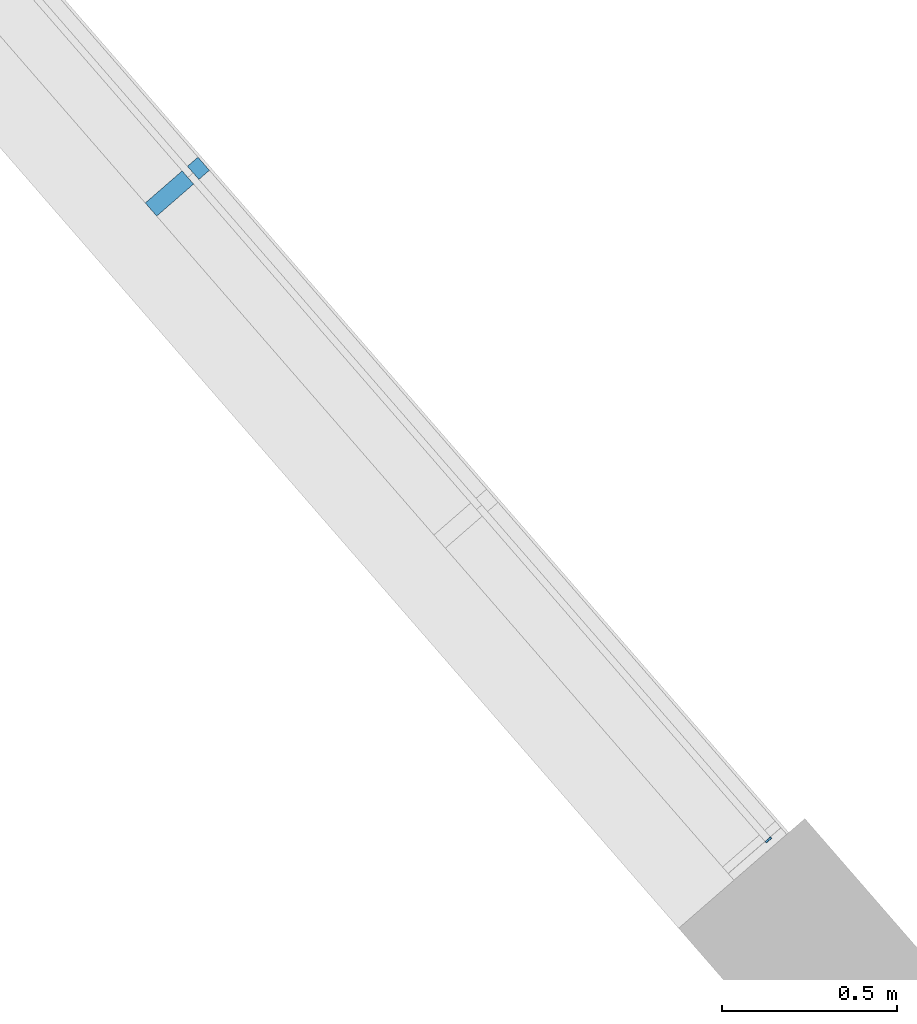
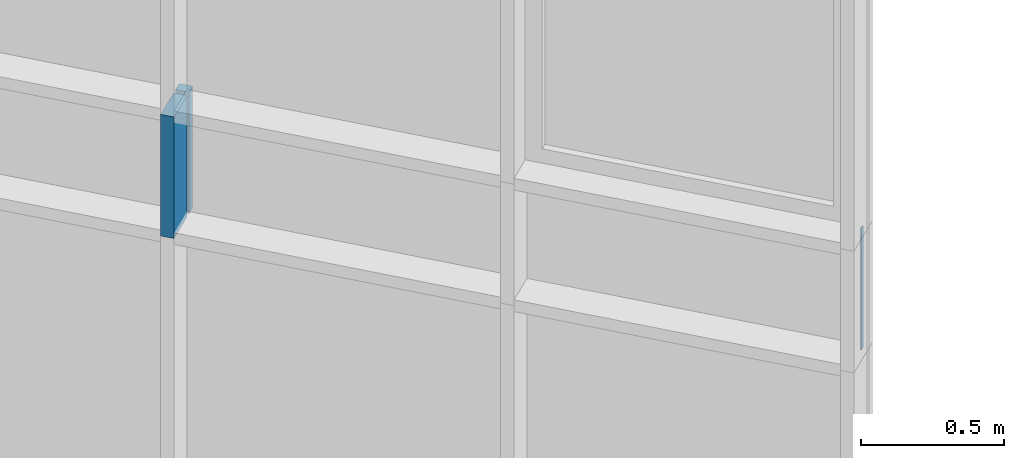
# One storey, part 69 of 390: 2 discrete accessories, 1 element without a shape of its own.
"""IFC2X3 building model written with IfcOpenShell, lengths in millimetres."""

import ifcopenshell
import ifcopenshell.guid

model = None  # the IFC model being written
_history = None  # IfcOwnerHistory: only IFC2X3 demands one
_inside = {}  # id of a spatial element -> (the spatial element, [elements in it])
_under = {}  # id of a project, library or spatial element -> (it, [spatial elements below it])
_declared = {}  # id of a project -> (the project, [libraries it declares])
_typed = {}  # id of a type object -> (the type object, [elements of that type])
_made_of = {}  # id of a material, layer set ... -> (it, [elements and type objects made of it])


def new_model(schema):
    """Start an empty IFC model of exactly this schema.

    Asked for "IFC4X3", IfcOpenShell would pick the latest addendum, in which some entities
    have other attributes; the version numbers below select the first issue.
    IFC2X3 requires an IfcOwnerHistory on every rooted entity: one is made here for all.
    """
    global model, _history
    if schema == "IFC4X3":
        model = ifcopenshell.file(schema_version=(4, 3, 0, 0))
    else:
        model = ifcopenshell.file(schema=schema)
    _inside.clear()
    _under.clear()
    _declared.clear()
    _typed.clear()
    _made_of.clear()
    _history = None
    if model.schema == "IFC2X3":
        org = make("IfcOrganization", Name="unknown")
        user = make(
            "IfcPersonAndOrganization",
            ThePerson=make("IfcPerson", FamilyName="unknown"),
            TheOrganization=org,
        )
        app = make(
            "IfcApplication",
            ApplicationDeveloper=org,
            Version="unknown",
            ApplicationFullName="unknown",
            ApplicationIdentifier="unknown",
        )
        _history = make(
            "IfcOwnerHistory",
            OwningUser=user,
            OwningApplication=app,
            ChangeAction="ADDED",
            CreationDate=0,
        )
    return model


def make(cls, **values):
    """One entity of the class cls with the attributes given. An attribute that is None is left unset."""
    return model.create_entity(
        cls, **{name: value for name, value in values.items() if value is not None}
    )


def entity(cls, *values):
    """Any entity or typed value of the class cls, its attributes in the order of the schema. None: left unset."""
    e = model.create_entity(cls)
    for i, value in enumerate(values):
        if value is not None:
            e[i] = value
    return e


def rooted(cls, **values):
    """An entity with a GlobalId (a new one), such as an element, a storey or a relation."""
    return make(cls, GlobalId=ifcopenshell.guid.new(), OwnerHistory=_history, **values)


def si_unit(unit_type, name, prefix=None):
    """IfcSIUnit, for example si_unit("LENGTHUNIT", "METRE", prefix="MILLI")."""
    return make("IfcSIUnit", UnitType=unit_type, Prefix=prefix, Name=name)


def converted_unit(unit_type, name, factor, base, dimensions=None, offset=None):
    """IfcConversionBasedUnit, such as the inch: factor (a typed value) times the base unit."""
    return make(
        "IfcConversionBasedUnit"
        if offset is None
        else "IfcConversionBasedUnitWithOffset",
        ConversionOffset=offset,
        Dimensions=None
        if dimensions is None
        else entity("IfcDimensionalExponents", *dimensions),
        UnitType=unit_type,
        Name=name,
        ConversionFactor=make(
            "IfcMeasureWithUnit", ValueComponent=factor, UnitComponent=base
        ),
    )


def derived_unit(unit_type, elements):
    """IfcDerivedUnit: a product of units, each with its exponent."""
    return make(
        "IfcDerivedUnit",
        Elements=[
            make("IfcDerivedUnitElement", Unit=unit, Exponent=power)
            for unit, power in elements
        ],
        UnitType=unit_type,
    )


def money_unit(currency):
    """IfcMonetaryUnit."""
    return make("IfcMonetaryUnit", Currency=currency)


def assignment(units):
    """IfcUnitAssignment: the units of a project."""
    return None if units is None else make("IfcUnitAssignment", Units=units)


def point(xyz):
    """IfcCartesianPoint."""
    return None if xyz is None else make("IfcCartesianPoint", Coordinates=xyz)


def direction(xyz):
    """IfcDirection."""
    return None if xyz is None else make("IfcDirection", DirectionRatios=xyz)


def frame(location, z_axis=None, x_axis=None):
    """IfcAxis2Placement3D, a coordinate frame: its origin and axes. An axis left out is left unset."""
    return make(
        "IfcAxis2Placement3D",
        Location=point(location),
        Axis=direction(z_axis),
        RefDirection=direction(x_axis),
    )


def origin_with_axes():
    """The frame at (0, 0, 0) with the z axis (0, 0, 1) and the x axis (1, 0, 0) written out."""
    return frame((0.0, 0.0, 0.0), z_axis=(0.0, 0.0, 1.0), x_axis=(1.0, 0.0, 0.0))


def place(relative_to, where):
    """IfcLocalPlacement: puts the frame where relative to a parent placement (None: the world)."""
    return make(
        "IfcLocalPlacement", PlacementRelTo=relative_to, RelativePlacement=where
    )


def context(
    kind, dimensions, precision=None, world=None, true_north=None, identifier=None
):
    """IfcGeometricRepresentationContext, for example the 3D "Model" context."""
    return make(
        "IfcGeometricRepresentationContext",
        ContextIdentifier=identifier,
        ContextType=kind,
        CoordinateSpaceDimension=dimensions,
        Precision=precision,
        WorldCoordinateSystem=world,
        TrueNorth=true_north,
    )


def subcontext(parent, identifier, kind, view, scale=None):
    """IfcGeometricRepresentationSubContext, for example "Body" below "Model"."""
    return make(
        "IfcGeometricRepresentationSubContext",
        ContextIdentifier=identifier,
        ContextType=kind,
        ParentContext=parent,
        TargetScale=scale,
        TargetView=view,
    )


def project(units=None, contexts=None):
    """IfcProject with its units and contexts."""
    return rooted(
        "IfcProject",
        Name="project",
        RepresentationContexts=contexts,
        UnitsInContext=assignment(units),
    )


def spatial(cls, under=None, at=None, **own):
    """A site, building, storey or space (cls), placed at a placement, below another one or the project."""
    s = rooted(cls, ObjectPlacement=at, **own)
    if under is not None:
        _under.setdefault(under.id(), (under, []))[1].append(s)
    return s


def polyline(points):
    """IfcPolyline through the points."""
    return make("IfcPolyline", Points=[point(p) for p in points])


def outline(outer, holes=None, kind="AREA"):
    """IfcArbitraryClosedProfileDef: a profile drawn as a closed curve; with holes, ...WithVoids."""
    if holes is None:
        return make("IfcArbitraryClosedProfileDef", ProfileType=kind, OuterCurve=outer)
    return make(
        "IfcArbitraryProfileDefWithVoids",
        ProfileType=kind,
        OuterCurve=outer,
        InnerCurves=holes,
    )


def extrude(swept, where, along, depth):
    """IfcExtrudedAreaSolid: the profile swept, set in the frame where, extruded along a direction by depth."""
    return make(
        "IfcExtrudedAreaSolid",
        SweptArea=swept,
        Position=where,
        ExtrudedDirection=direction(along),
        Depth=depth,
    )


def shape(context_of_items, identifier, shape_type, items):
    """IfcShapeRepresentation: the items that make up one representation, for example the "Body"."""
    return make(
        "IfcShapeRepresentation",
        ContextOfItems=context_of_items,
        RepresentationIdentifier=identifier,
        RepresentationType=shape_type,
        Items=items,
    )


def material(Name=None, Category=None):
    """IfcMaterial."""
    return make("IfcMaterial", Name=Name, Category=Category)


def material_list(materials):
    """IfcMaterialList."""
    return make("IfcMaterialList", Materials=materials)


def made_of(thing, what):
    """Note that an element or type object is made of a material, layer set ...; save() writes the relation."""
    if what is not None:
        _made_of.setdefault(what.id(), (what, []))[1].append(thing)
    return thing


def type_object(cls, material=None, **own):
    """A type object (cls), such as IfcWallType, which elements share."""
    return made_of(rooted(cls, **own), material)


def element(
    cls,
    number,
    at=None,
    inside=None,
    cuts=None,
    type_object=None,
    material=None,
    context=None,
    identifier="Body",
    shape_type=None,
    held_by="IfcProductDefinitionShape",
    body=None,
    shapes=None,
    **own,
):
    """One element of the class cls, such as IfcWall. Its Tag is "e" and its number.

    at: its placement. inside: the storey or other place that contains it. cuts: it is an
    opening in that element (IfcRelVoidsElement). A single representation is given by context,
    identifier, shape_type and body (its items); several are given by shapes. held_by: the class
    of the entity that holds the representations. save() writes the other relations.
    """
    e = rooted(cls, Tag="e%d" % number, ObjectPlacement=at, **own)
    if body is not None:
        shapes = [shape(context, identifier, shape_type, body)]
    if shapes is not None:
        e.Representation = make(held_by, Representations=shapes)
    if inside is not None:
        _inside.setdefault(inside.id(), (inside, []))[1].append(e)
    if cuts is not None:
        rooted(
            "IfcRelVoidsElement", RelatingBuildingElement=cuts, RelatedOpeningElement=e
        )
    if type_object is not None:
        _typed.setdefault(type_object.id(), (type_object, []))[1].append(e)
    return made_of(e, material)


def aggregate(whole, parts):
    """IfcRelAggregates: a whole, such as a stair, and the parts it consists of."""
    return rooted("IfcRelAggregates", RelatingObject=whole, RelatedObjects=parts)


def save(model, path):
    """Write the relations noted so far, then the file.

    IfcRelAggregates (storeys below a building ...), IfcRelContainedInSpatialStructure (elements
    in a storey), IfcRelDefinesByType, IfcRelAssociatesMaterial and IfcRelDeclares: one each for
    every whole, place, type object, material and project.
    """
    for whole, parts in _under.values():
        aggregate(whole, parts)
    for where, things in _inside.values():
        rooted(
            "IfcRelContainedInSpatialStructure",
            RelatedElements=things,
            RelatingStructure=where,
        )
    for kind, things in _typed.values():
        rooted("IfcRelDefinesByType", RelatedObjects=things, RelatingType=kind)
    for what, things in _made_of.values():
        rooted("IfcRelAssociatesMaterial", RelatedObjects=things, RelatingMaterial=what)
    for by, libraries in _declared.values():
        rooted("IfcRelDeclares", RelatingContext=by, RelatedDefinitions=libraries)
    model.write(path)


model = new_model("IFC2X3")

# Units and contexts
model_context = context("Model", 3, precision=1e-05, world=origin_with_axes(), true_north=direction((0.0, 1.0)))
body_context = subcontext(model_context, "Body", "Model", "MODEL_VIEW")
ifc_project = project(units=[si_unit("LENGTHUNIT", "METRE", prefix="MILLI"), si_unit("AREAUNIT", "SQUARE_METRE"), si_unit("VOLUMEUNIT", "CUBIC_METRE"), converted_unit("PLANEANGLEUNIT", "DEGREE", entity("IfcPlaneAngleMeasure", 0.0174532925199), si_unit("PLANEANGLEUNIT", "RADIAN"), dimensions=[0, 0, 0, 0, 0, 0, 0]), si_unit("SOLIDANGLEUNIT", "STERADIAN"), money_unit("EUR"), converted_unit("TIMEUNIT", "Year", entity("IfcTimeMeasure", 31556926.0), si_unit("TIMEUNIT", "SECOND"), dimensions=[0, 0, 1, 0, 0, 0, 0]), si_unit("MASSUNIT", "GRAM", prefix="KILO"), si_unit("THERMODYNAMICTEMPERATUREUNIT", "DEGREE_CELSIUS"), si_unit("LUMINOUSINTENSITYUNIT", "LUMEN"), si_unit("ENERGYUNIT", "JOULE", prefix="MEGA"), derived_unit("THERMALCONDUCTANCEUNIT", [(si_unit("POWERUNIT", "WATT"), 1), (si_unit("LENGTHUNIT", "METRE"), -1), (si_unit("THERMODYNAMICTEMPERATUREUNIT", "KELVIN"), -1)]), derived_unit("SPECIFICHEATCAPACITYUNIT", [(si_unit("ENERGYUNIT", "JOULE"), 1), (si_unit("MASSUNIT", "GRAM", prefix="KILO"), -1), (si_unit("THERMODYNAMICTEMPERATUREUNIT", "KELVIN"), -1)]), derived_unit("MASSDENSITYUNIT", [(si_unit("MASSUNIT", "GRAM", prefix="KILO"), 1), (si_unit("VOLUMEUNIT", "CUBIC_METRE"), -1)])], contexts=[model_context])

# Site, building, storey
site_placement = place(None, origin_with_axes())
site = spatial("IfcSite", under=ifc_project, at=site_placement, Name="Site", CompositionType="ELEMENT")
building_placement = place(site_placement, origin_with_axes())
building = spatial("IfcBuilding", under=site, at=building_placement, Name="Building", CompositionType="ELEMENT")
storey_placement = place(building_placement, origin_with_axes())
storey = spatial("IfcBuildingStorey", under=building, at=storey_placement, Name="1 korrus", CompositionType="ELEMENT", Elevation=0.0)

# Curtain wall, discrete accessories
curtain_wall_type = type_object("IfcCurtainWallType", Name="KLF-17", PredefinedType="NOTDEFINED")
curtain_wall_placement = place(storey_placement, frame((175630.823927, 104534.758561, -0.000216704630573), z_axis=(0.0, 0.0, 1.0), x_axis=(1.0, 0.0, 0.0)))
curtain_wall = element("IfcCurtainWall", 1, at=curtain_wall_placement, inside=storey, type_object=curtain_wall_type, Name="Klaasfassaad")
ifc_material_1 = material(Name="Klaas")
discrete_accessory_type_1 = type_object("IfcDiscreteAccessoryType", Name="5 x 520 x 20")
discrete_accessory_1_placement = place(curtain_wall_placement, frame((2901.41286064, -3337.69369119, 4980.0002167), z_axis=(0.0, 0.0, 1.0), x_axis=(-0.65605902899, 0.754709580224, 0.0)))
discrete_accessory_1 = element("IfcDiscreteAccessory", 2, at=discrete_accessory_1_placement, type_object=discrete_accessory_type_1, material=ifc_material_1, Name="KLF-17 klaaspakett", context=body_context, shape_type="SweptSolid", body=[
    extrude(outline(polyline([(7.51248884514, -260.000003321), (12.4875079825, -260.000003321), (12.4875079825, 260.000003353), (7.51248884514, 260.000003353), (7.51248884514, -260.000003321)])), frame((0.0, -9.99999999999, 0.0), z_axis=(0.0, 1.0, 0.0), x_axis=(1.0, 0.0, 0.0)), (0.0, 0.0, 1.0), 20.0),
])
ifc_material_2 = material(Name="Aluminium MUST")
ifc_material_list = material_list([ifc_material_2, ifc_material_2])
discrete_accessory_type_2 = type_object("IfcDiscreteAccessoryType", Name="50 x 200")
discrete_accessory_2_placement = place(curtain_wall_placement, frame((1239.95156479, -1426.40110662, 4720.0002167), z_axis=(0.0, 0.0, 1.0), x_axis=(-0.65605902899, 0.754709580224, 0.0)))
discrete_accessory_2 = element("IfcDiscreteAccessory", 3, at=discrete_accessory_2_placement, type_object=discrete_accessory_type_2, material=ifc_material_list, Name="KLF-17 profiil", context=body_context, shape_type="SweptSolid", body=[
    extrude(outline(polyline([(-129.607912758, -79.5411148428), (-96.8049613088, -117.276593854), (8.8543799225, -25.4283297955), (-23.948571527, 12.3071492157), (-129.607912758, -79.5411148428)])), frame((0.0, 0.0, 0.0), z_axis=(0.0, 0.0, 1.0), x_axis=(-0.65605902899, -0.754709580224, 0.0)), (0.0, 0.0, 1.0), 520.0),
    extrude(outline(polyline([(54.1369547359, 13.9352119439), (21.3340032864, 51.6706909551), (-8.8543799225, 25.4283297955), (23.9485715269, -12.3071492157), (54.1369547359, 13.9352119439)])), frame((0.0, 0.0, 0.0), z_axis=(0.0, 0.0, 1.0), x_axis=(-0.65605902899, -0.754709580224, 0.0)), (0.0, 0.0, 1.0), 520.0),
])
aggregate(curtain_wall, [discrete_accessory_1, discrete_accessory_2])

save(model, "model.ifc")
